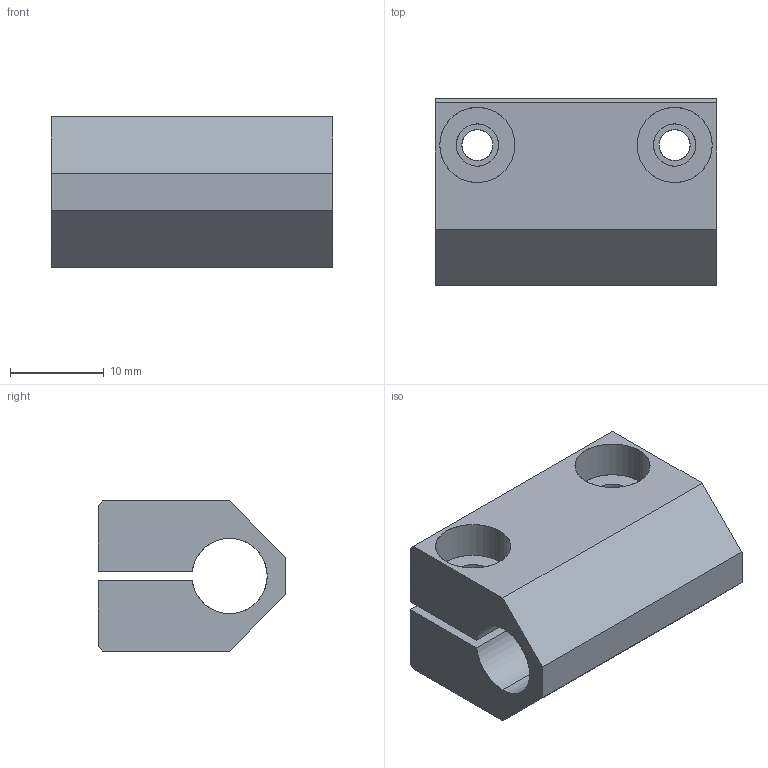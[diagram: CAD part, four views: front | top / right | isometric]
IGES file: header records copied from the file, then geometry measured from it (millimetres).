
Start section: SolidWorks IGES file using analytic representation for surfaces
Global section: file name: C:\Documents and Settings\CAD53\デスクトップ\IGES\N01861-303-2.IGS; native system: SolidWorks 2005 by SolidWorks Corporation; preprocessor: SolidWorks 2005 by SolidWorks Corporation; author: CAD53; date: 070530.102537; units: millimetre
Bounding box: 30 x 20 x 16 mm (x, y, z)
Surface area: 4126.2 mm2 (no closed solid volume)
Topology: 0 solids, 0 shells, 35 faces, 662 edges, 662 vertices
Faces by surface type: revolution 18, bspline 17
